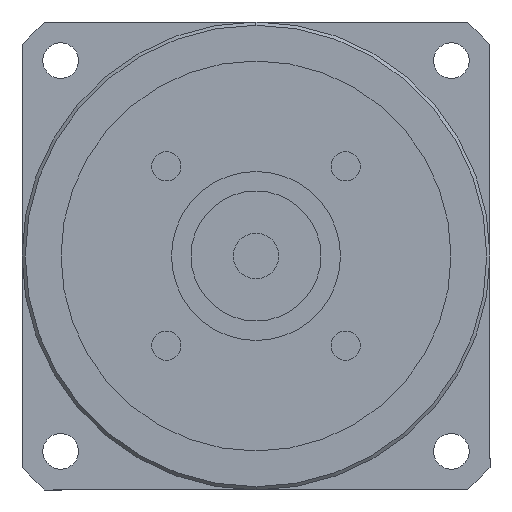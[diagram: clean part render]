
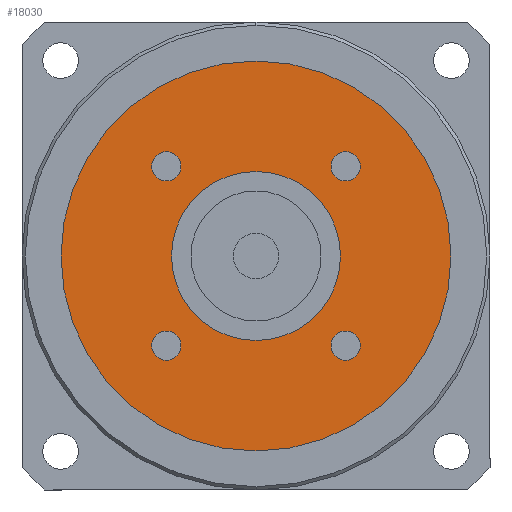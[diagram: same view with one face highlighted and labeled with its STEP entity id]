
A CAD part, left-side view. The second image highlights one B-rep face of the part: STEP entity #18030.
In plain terms, the highlighted planar face has unit normal (-1, 0, 0) as drawn and (0, 0, -1) by its records, which use the part's own axes.
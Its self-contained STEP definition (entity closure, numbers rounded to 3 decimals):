
#15130=CARTESIAN_POINT('',(-11.539,-13.789,-91.));
#15140=VERTEX_POINT('',#15130);
#15320=CARTESIAN_POINT('',(-16.039,-13.789,-91.));
#15330=VERTEX_POINT('',#15320);
#15360=CARTESIAN_POINT('',(-13.789,-13.789,-91.));
#15370=DIRECTION('',(0.,0.,-1.));
#15380=DIRECTION('',(0.,-1.,0.));
#15390=AXIS2_PLACEMENT_3D('',#15360,#15370,#15380);
#15400=CIRCLE('',#15390,2.25);
#15410=EDGE_CURVE('',#15140,#15330,#15400,.T.);
#15550=CARTESIAN_POINT('',(-13.,0.,-91.));
#15560=VERTEX_POINT('',#15550);
#15740=CARTESIAN_POINT('',(13.,0.,-91.));
#15750=VERTEX_POINT('',#15740);
#15780=CARTESIAN_POINT('',(0.,0.,
-91.));
#15790=DIRECTION('',(0.,0.,1.));
#15800=DIRECTION('',(0.,-1.,0.));
#15810=AXIS2_PLACEMENT_3D('',#15780,#15790,#15800);
#15820=CIRCLE('',#15810,13.);
#15830=EDGE_CURVE('',#15750,#15560,#15820,.T.);
#17150=CARTESIAN_POINT('',(30.,0.,-91.));
#17160=VERTEX_POINT('',#17150);
#17240=CARTESIAN_POINT('',(-30.,0.,-91.));
#17250=VERTEX_POINT('',#17240);
#17280=CARTESIAN_POINT('',(0.,0.,
-91.));
#17290=DIRECTION('',(0.,0.,1.));
#17300=DIRECTION('',(0.,-1.,0.));
#17310=AXIS2_PLACEMENT_3D('',#17280,#17290,#17300);
#17320=CIRCLE('',#17310,30.);
#17330=EDGE_CURVE('',#17160,#17250,#17320,.T.);
#17380=CARTESIAN_POINT('',(0.,0.,
-91.));
#17390=DIRECTION('',(0.,0.,1.));
#17400=DIRECTION('',(-1.,0.,0.));
#17410=AXIS2_PLACEMENT_3D('',#17380,#17390,#17400);
#17420=PLANE('',#17410);
#17430=CARTESIAN_POINT('',(13.789,-13.789,-91.));
#17440=DIRECTION('',(0.,0.,-1.));
#17450=DIRECTION('',(1.,0.,0.));
#17460=AXIS2_PLACEMENT_3D('',#17430,#17440,#17450);
#17470=CIRCLE('',#17460,2.25);
#17480=CARTESIAN_POINT('',(13.789,-11.539,-91.));
#17490=VERTEX_POINT('',#17480);
#17500=CARTESIAN_POINT('',(13.789,-16.039,-91.));
#17510=VERTEX_POINT('',#17500);
#17520=EDGE_CURVE('',#17490,#17510,#17470,.T.);
#17530=ORIENTED_EDGE('',*,*,#17520,.F.);
#17540=EDGE_CURVE('',#17510,#17490,#17470,.T.);
#17550=ORIENTED_EDGE('',*,*,#17540,.F.);
#17560=EDGE_LOOP('',(#17550,#17530));
#17570=FACE_BOUND('',#17560,.T.);
#17580=CARTESIAN_POINT('',(13.789,13.789,-91.));
#17590=DIRECTION('',(0.,0.,-1.));
#17600=DIRECTION('',(0.,1.,0.));
#17610=AXIS2_PLACEMENT_3D('',#17580,#17590,#17600);
#17620=CIRCLE('',#17610,2.25);
#17630=CARTESIAN_POINT('',(16.039,13.789,-91.));
#17640=VERTEX_POINT('',#17630);
#17650=CARTESIAN_POINT('',(11.539,13.789,-91.));
#17660=VERTEX_POINT('',#17650);
#17670=EDGE_CURVE('',#17640,#17660,#17620,.T.);
#17680=ORIENTED_EDGE('',*,*,#17670,.F.);
#17690=EDGE_CURVE('',#17660,#17640,#17620,.T.);
#17700=ORIENTED_EDGE('',*,*,#17690,.F.);
#17710=EDGE_LOOP('',(#17700,#17680));
#17720=FACE_BOUND('',#17710,.T.);
#17730=CARTESIAN_POINT('',(-13.789,13.789,-91.));
#17740=DIRECTION('',(0.,0.,-1.));
#17750=DIRECTION('',(-1.,0.,0.));
#17760=AXIS2_PLACEMENT_3D('',#17730,#17740,#17750);
#17770=CIRCLE('',#17760,2.25);
#17780=CARTESIAN_POINT('',(-13.789,11.539,-91.));
#17790=VERTEX_POINT('',#17780);
#17800=CARTESIAN_POINT('',(-13.789,16.039,-91.));
#17810=VERTEX_POINT('',#17800);
#17820=EDGE_CURVE('',#17790,#17810,#17770,.T.);
#17830=ORIENTED_EDGE('',*,*,#17820,.F.);
#17840=EDGE_CURVE('',#17810,#17790,#17770,.T.);
#17850=ORIENTED_EDGE('',*,*,#17840,.F.);
#17860=EDGE_LOOP('',(#17850,#17830));
#17870=FACE_BOUND('',#17860,.T.);
#17880=EDGE_CURVE('',#15330,#15140,#15400,.T.);
#17890=ORIENTED_EDGE('',*,*,#17880,.F.);
#17900=ORIENTED_EDGE('',*,*,#15410,.F.);
#17910=EDGE_LOOP('',(#17900,#17890));
#17920=FACE_BOUND('',#17910,.T.);
#17930=EDGE_CURVE('',#17250,#17160,#17320,.T.);
#17940=ORIENTED_EDGE('',*,*,#17930,.F.);
#17950=ORIENTED_EDGE('',*,*,#17330,.F.);
#17960=EDGE_LOOP('',(#17950,#17940));
#17970=FACE_OUTER_BOUND('',#17960,.T.);
#17980=EDGE_CURVE('',#15560,#15750,#15820,.T.);
#17990=ORIENTED_EDGE('',*,*,#17980,.T.);
#18000=ORIENTED_EDGE('',*,*,#15830,.T.);
#18010=EDGE_LOOP('',(#18000,#17990));
#18020=FACE_BOUND('',#18010,.T.);
#18030=ADVANCED_FACE('',(#17570,#17720,#17870,#17920,#17970,#18020),
#17420,.F.);
